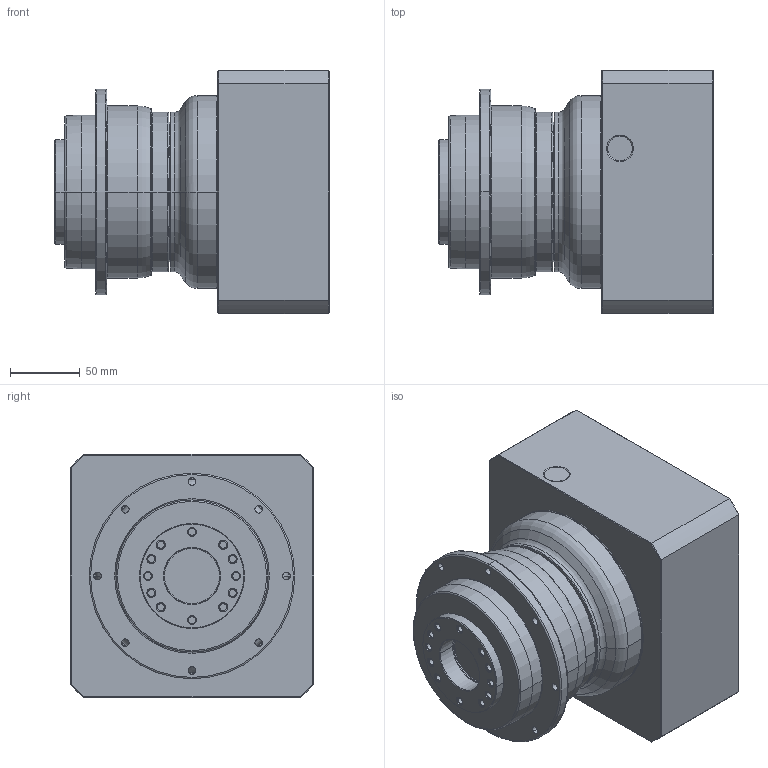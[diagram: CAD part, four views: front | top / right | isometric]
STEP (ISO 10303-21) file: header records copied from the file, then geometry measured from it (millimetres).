
FILE_DESCRIPTION((''),'2;1');
FILE_NAME('PD110_1ST_38-P0411900101_ASM','2016-06-02T',('d01943'),(''),'PRO/ENGINEER BY PARAMETRIC TECHNOLOGY CORPORATION, 2008410','PRO/ENGINEER BY PARAMETRIC TECHNOLOGY CORPORATION, 2008410','');
FILE_SCHEMA(('CONFIG_CONTROL_DESIGN'));
Length unit declared in the file: millimetre
Products named in the file (8): P1355400001; P0367400001; P0274400001; P1324400501; P0411900101; P0503900010; P0941405001; PD110_1ST_38-P0411900101_ASM
Assembly tree (7 placements, depth 2):
  PD110_1ST_38-P0411900101_ASM
    P1355400001
    P0367400001
    P0274400001
    P1324400501
    P0411900101
    P0503900010
    P0941405001
Bounding box: 195.93 x 174 x 174 mm (x, y, z)
Volume: 3175727.6 mm3; surface area: 349292.8 mm2
Topology: 7 solids, 7 shells, 411 faces, 959 edges, 582 vertices
Faces by surface type: cylinder 164, cone 90, plane 73, torus 70, bspline 14
Entity records: 16459 total; most frequent: CARTESIAN_POINT 6682, DIRECTION 2189, ORIENTED_EDGE 1886, AXIS2_PLACEMENT_3D 943, EDGE_CURVE 943, VERTEX_POINT 582, CIRCLE 531, EDGE_LOOP 503
